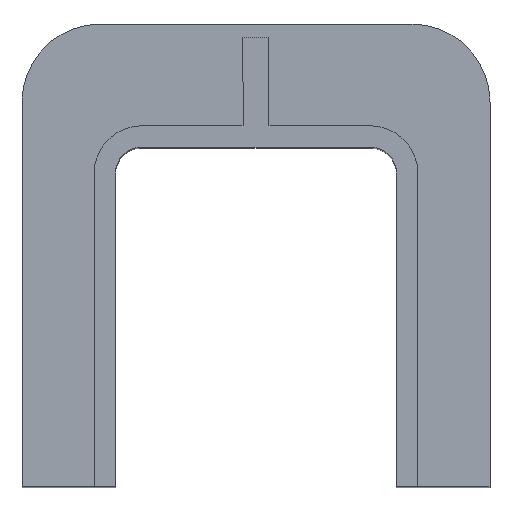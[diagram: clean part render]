
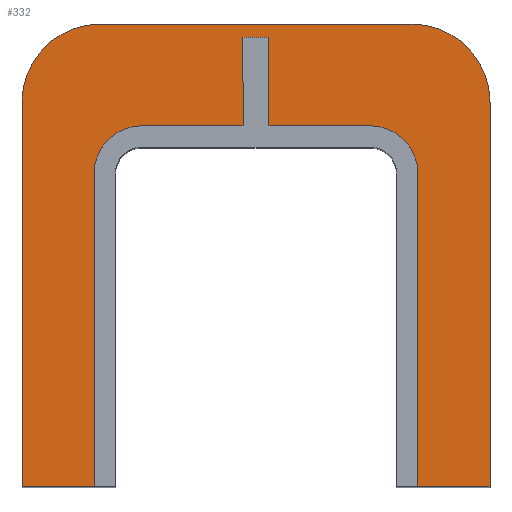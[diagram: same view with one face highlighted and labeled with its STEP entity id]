
A CAD part, top view. The second image highlights one B-rep face of the part: STEP entity #332.
In plain terms, the highlighted planar face has unit normal (0, 0, 1).
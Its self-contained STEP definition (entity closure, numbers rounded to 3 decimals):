
#2 = CARTESIAN_POINT ( 'NONE',  ( 45., -44.5, 30. ) ) ;
#3 = ORIENTED_EDGE ( 'NONE', *, *, #160, .T. ) ;
#4 = CARTESIAN_POINT ( 'NONE',  ( 30., 29.5, 30. ) ) ;
#14 = CARTESIAN_POINT ( 'NONE',  ( -22., 24.9, 30. ) ) ;
#18 = EDGE_LOOP ( 'NONE', ( #241, #1000, #881, #1107, #255, #1151, #1048, #44, #169, #3, #952, #1013, #1132, #760, #865, #512 ) ) ;
#27 = EDGE_CURVE ( 'NONE', #342, #617, #684, .T. ) ;
#37 = DIRECTION ( 'NONE',  ( 1., 0., 0. ) ) ;
#41 = LINE ( 'NONE', #242, #437 ) ;
#44 = ORIENTED_EDGE ( 'NONE', *, *, #690, .T. ) ;
#46 = EDGE_CURVE ( 'NONE', #736, #445, #654, .T. ) ;
#61 = EDGE_CURVE ( 'NONE', #297, #1164, #336, .T. ) ;
#81 = CARTESIAN_POINT ( 'NONE',  ( -30., 29.5, 30. ) ) ;
#94 = DIRECTION ( 'NONE',  ( 1., 0., 0. ) ) ;
#100 = VERTEX_POINT ( 'NONE', #399 ) ;
#104 = DIRECTION ( 'NONE',  ( -1., 0., 0. ) ) ;
#125 = VECTOR ( 'NONE', #1035, 1000. ) ;
#139 = VECTOR ( 'NONE', #220, 1000. ) ;
#160 = EDGE_CURVE ( 'NONE', #998, #468, #41, .T. ) ;
#164 = VECTOR ( 'NONE', #94, 1000. ) ;
#165 = CARTESIAN_POINT ( 'NONE',  ( -45., -44.5, 30. ) ) ;
#169 = ORIENTED_EDGE ( 'NONE', *, *, #678, .T. ) ;
#173 = CIRCLE ( 'NONE', #645, 9.1 ) ;
#182 = DIRECTION ( 'NONE',  ( 0., 0., -1. ) ) ;
#187 = CARTESIAN_POINT ( 'NONE',  ( 0., 0., 30. ) ) ;
#209 = LINE ( 'NONE', #976, #808 ) ;
#220 = DIRECTION ( 'NONE',  ( 0., -1., 0. ) ) ;
#229 = AXIS2_PLACEMENT_3D ( 'NONE', #187, #182, #1012 ) ;
#232 = LINE ( 'NONE', #391, #1171 ) ;
#241 = ORIENTED_EDGE ( 'NONE', *, *, #61, .F. ) ;
#242 = CARTESIAN_POINT ( 'NONE',  ( -45., 44.5, 30. ) ) ;
#255 = ORIENTED_EDGE ( 'NONE', *, *, #1039, .F. ) ;
#257 = EDGE_CURVE ( 'NONE', #468, #719, #643, .T. ) ;
#260 = CARTESIAN_POINT ( 'NONE',  ( -22., 15.8, 30. ) ) ;
#263 = EDGE_CURVE ( 'NONE', #439, #617, #1127, .T. ) ;
#281 = LINE ( 'NONE', #14, #1059 ) ;
#285 = VERTEX_POINT ( 'NONE', #2 ) ;
#297 = VERTEX_POINT ( 'NONE', #991 ) ;
#330 = CARTESIAN_POINT ( 'NONE',  ( 2.5, 41.9, 30. ) ) ;
#332 = ADVANCED_FACE ( 'NONE', ( #995 ), #461, .F. ) ;
#336 = LINE ( 'NONE', #692, #139 ) ;
#342 = VERTEX_POINT ( 'NONE', #1095 ) ;
#344 = EDGE_CURVE ( 'NONE', #659, #297, #452, .T. ) ;
#350 = DIRECTION ( 'NONE',  ( -1., 0., 0. ) ) ;
#363 = EDGE_CURVE ( 'NONE', #1164, #1031, #281, .T. ) ;
#367 = DIRECTION ( 'NONE',  ( 0., 0., 1. ) ) ;
#371 = DIRECTION ( 'NONE',  ( -1., 0., 0. ) ) ;
#391 = CARTESIAN_POINT ( 'NONE',  ( -45., -44.5, 30. ) ) ;
#399 = CARTESIAN_POINT ( 'NONE',  ( 2.5, 24.9, 30. ) ) ;
#426 = CARTESIAN_POINT ( 'NONE',  ( -31.1, -44.5, 30. ) ) ;
#437 = VECTOR ( 'NONE', #1158, 1000. ) ;
#439 = VERTEX_POINT ( 'NONE', #786 ) ;
#445 = VERTEX_POINT ( 'NONE', #1038 ) ;
#450 = VECTOR ( 'NONE', #734, 1000. ) ;
#452 = LINE ( 'NONE', #647, #1046 ) ;
#461 = PLANE ( 'NONE',  #229 ) ;
#468 = VERTEX_POINT ( 'NONE', #589 ) ;
#488 = CARTESIAN_POINT ( 'NONE',  ( 30., 44.5, 30. ) ) ;
#504 = CARTESIAN_POINT ( 'NONE',  ( 22., 15.8, 30. ) ) ;
#510 = LINE ( 'NONE', #1170, #580 ) ;
#512 = ORIENTED_EDGE ( 'NONE', *, *, #363, .F. ) ;
#513 = CARTESIAN_POINT ( 'NONE',  ( 45., 29.5, 30. ) ) ;
#519 = AXIS2_PLACEMENT_3D ( 'NONE', #504, #1137, #968 ) ;
#535 = DIRECTION ( 'NONE',  ( 0., -1., 0. ) ) ;
#544 = DIRECTION ( 'NONE',  ( -1., 0., 0. ) ) ;
#549 = CARTESIAN_POINT ( 'NONE',  ( -45., -44.5, 30. ) ) ;
#580 = VECTOR ( 'NONE', #1079, 1000. ) ;
#589 = CARTESIAN_POINT ( 'NONE',  ( -30., 44.5, 30. ) ) ;
#617 = VERTEX_POINT ( 'NONE', #426 ) ;
#639 = CARTESIAN_POINT ( 'NONE',  ( -45., 29.5, 30. ) ) ;
#643 = CIRCLE ( 'NONE', #752, 15. ) ;
#645 = AXIS2_PLACEMENT_3D ( 'NONE', #260, #818, #544 ) ;
#647 = CARTESIAN_POINT ( 'NONE',  ( 2.5, 41.9, 30. ) ) ;
#652 = VECTOR ( 'NONE', #535, 1000. ) ;
#654 = LINE ( 'NONE', #948, #125 ) ;
#659 = VERTEX_POINT ( 'NONE', #330 ) ;
#678 = EDGE_CURVE ( 'NONE', #1049, #998, #755, .T. ) ;
#684 = LINE ( 'NONE', #764, #921 ) ;
#690 = EDGE_CURVE ( 'NONE', #285, #1049, #510, .T. ) ;
#692 = CARTESIAN_POINT ( 'NONE',  ( -2.5, 41.9, 30. ) ) ;
#697 = LINE ( 'NONE', #994, #450 ) ;
#713 = EDGE_CURVE ( 'NONE', #100, #659, #697, .T. ) ;
#719 = VERTEX_POINT ( 'NONE', #639 ) ;
#734 = DIRECTION ( 'NONE',  ( 0., 1., 0. ) ) ;
#736 = VERTEX_POINT ( 'NONE', #1083 ) ;
#752 = AXIS2_PLACEMENT_3D ( 'NONE', #81, #367, #350 ) ;
#755 = CIRCLE ( 'NONE', #938, 15. ) ;
#758 = EDGE_CURVE ( 'NONE', #1031, #342, #173, .T. ) ;
#760 = ORIENTED_EDGE ( 'NONE', *, *, #27, .F. ) ;
#764 = CARTESIAN_POINT ( 'NONE',  ( -31.1, -44.5, 30. ) ) ;
#786 = CARTESIAN_POINT ( 'NONE',  ( -45., -44.5, 30. ) ) ;
#802 = CARTESIAN_POINT ( 'NONE',  ( -2.5, 24.9, 30. ) ) ;
#808 = VECTOR ( 'NONE', #1062, 1000. ) ;
#818 = DIRECTION ( 'NONE',  ( 0., 0., 1. ) ) ;
#834 = LINE ( 'NONE', #165, #652 ) ;
#847 = DIRECTION ( 'NONE',  ( 0., -1., 0. ) ) ;
#865 = ORIENTED_EDGE ( 'NONE', *, *, #758, .F. ) ;
#881 = ORIENTED_EDGE ( 'NONE', *, *, #713, .F. ) ;
#886 = CIRCLE ( 'NONE', #519, 9.1 ) ;
#901 = DIRECTION ( 'NONE',  ( 0., 0., 1. ) ) ;
#911 = DIRECTION ( 'NONE',  ( -1., 0., 0. ) ) ;
#921 = VECTOR ( 'NONE', #847, 1000. ) ;
#938 = AXIS2_PLACEMENT_3D ( 'NONE', #4, #901, #911 ) ;
#948 = CARTESIAN_POINT ( 'NONE',  ( 31.1, 15.8, 30. ) ) ;
#952 = ORIENTED_EDGE ( 'NONE', *, *, #257, .T. ) ;
#953 = CARTESIAN_POINT ( 'NONE',  ( -22., 24.9, 30. ) ) ;
#956 = CARTESIAN_POINT ( 'NONE',  ( 22., 24.9, 30. ) ) ;
#968 = DIRECTION ( 'NONE',  ( -1., 0., 0. ) ) ;
#976 = CARTESIAN_POINT ( 'NONE',  ( -22., 24.9, 30. ) ) ;
#991 = CARTESIAN_POINT ( 'NONE',  ( -2.5, 41.9, 30. ) ) ;
#994 = CARTESIAN_POINT ( 'NONE',  ( 2.5, 24.9, 30. ) ) ;
#995 = FACE_OUTER_BOUND ( 'NONE', #18, .T. ) ;
#998 = VERTEX_POINT ( 'NONE', #488 ) ;
#999 = EDGE_CURVE ( 'NONE', #736, #285, #232, .T. ) ;
#1000 = ORIENTED_EDGE ( 'NONE', *, *, #344, .F. ) ;
#1012 = DIRECTION ( 'NONE',  ( -1., 0., 0. ) ) ;
#1013 = ORIENTED_EDGE ( 'NONE', *, *, #1153, .T. ) ;
#1031 = VERTEX_POINT ( 'NONE', #953 ) ;
#1035 = DIRECTION ( 'NONE',  ( 0., 1., 0. ) ) ;
#1038 = CARTESIAN_POINT ( 'NONE',  ( 31.1, 15.8, 30. ) ) ;
#1039 = EDGE_CURVE ( 'NONE', #445, #1108, #886, .T. ) ;
#1046 = VECTOR ( 'NONE', #371, 1000. ) ;
#1048 = ORIENTED_EDGE ( 'NONE', *, *, #999, .T. ) ;
#1049 = VERTEX_POINT ( 'NONE', #513 ) ;
#1059 = VECTOR ( 'NONE', #104, 1000. ) ;
#1062 = DIRECTION ( 'NONE',  ( -1., 0., 0. ) ) ;
#1079 = DIRECTION ( 'NONE',  ( 0., 1., 0. ) ) ;
#1083 = CARTESIAN_POINT ( 'NONE',  ( 31.1, -44.5, 30. ) ) ;
#1095 = CARTESIAN_POINT ( 'NONE',  ( -31.1, 15.8, 30. ) ) ;
#1107 = ORIENTED_EDGE ( 'NONE', *, *, #1160, .F. ) ;
#1108 = VERTEX_POINT ( 'NONE', #956 ) ;
#1127 = LINE ( 'NONE', #549, #164 ) ;
#1132 = ORIENTED_EDGE ( 'NONE', *, *, #263, .T. ) ;
#1137 = DIRECTION ( 'NONE',  ( 0., 0., 1. ) ) ;
#1151 = ORIENTED_EDGE ( 'NONE', *, *, #46, .F. ) ;
#1153 = EDGE_CURVE ( 'NONE', #719, #439, #834, .T. ) ;
#1158 = DIRECTION ( 'NONE',  ( -1., 0., 0. ) ) ;
#1160 = EDGE_CURVE ( 'NONE', #1108, #100, #209, .T. ) ;
#1164 = VERTEX_POINT ( 'NONE', #802 ) ;
#1170 = CARTESIAN_POINT ( 'NONE',  ( 45., -44.5, 30. ) ) ;
#1171 = VECTOR ( 'NONE', #37, 1000. ) ;
